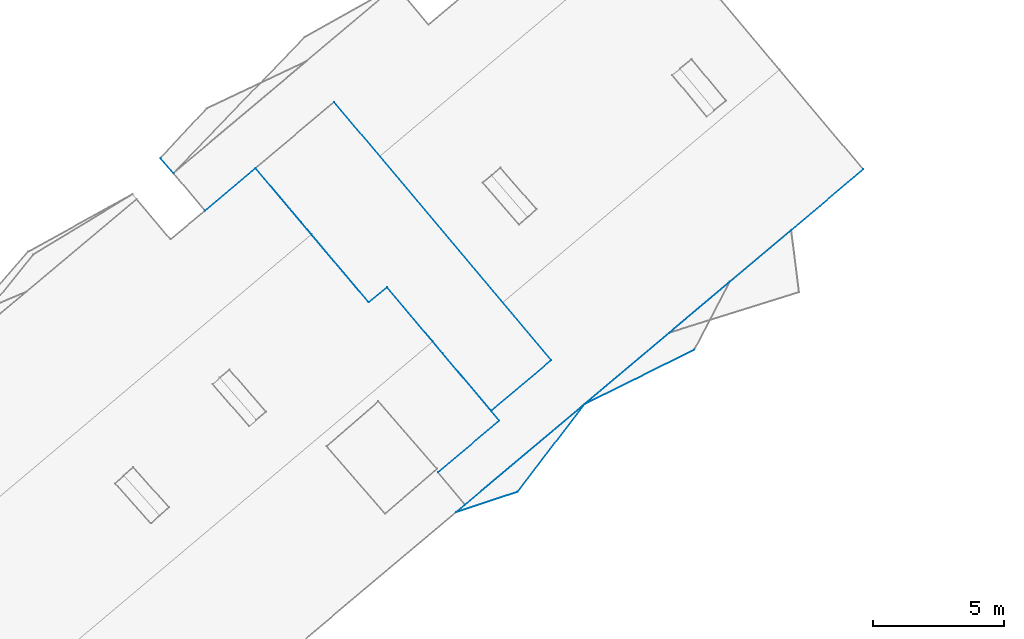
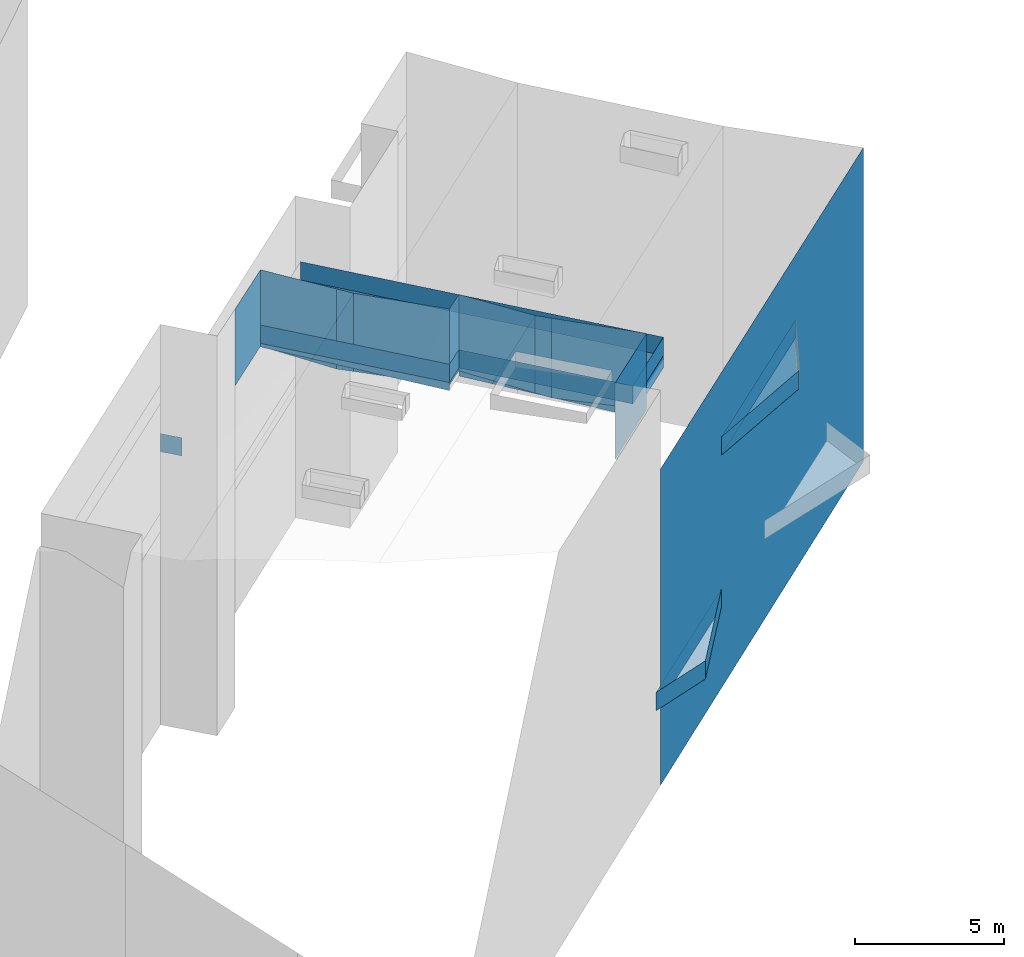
# Not in any storey, part 45 of 136: 36 walls.
"""IFC4 building model written with IfcOpenShell, lengths in metres."""

from ifc_helpers import new_model, entity, si_unit, converted_unit, frame, origin, place, context, subcontext, project, spatial, face_set, surface_model, element, save


model = new_model("IFC4")

# Units and contexts
model_context = context("Model", 3, precision=1e-05, world=origin())
body_context = subcontext(model_context, "Body", "Model", "MODEL_VIEW")
ifc_project = project(units=[converted_unit("PLANEANGLEUNIT", "DEGREE", entity("IfcRatioMeasure", 0.0174532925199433), si_unit("PLANEANGLEUNIT", "RADIAN"), dimensions=[0, 0, 0, 0, 0, 0, 0]), si_unit("AREAUNIT", "SQUARE_METRE"), si_unit("LENGTHUNIT", "METRE")], contexts=[model_context])

# Site, building
site_placement = place(None, origin())
site = spatial("IfcSite", under=ifc_project, at=site_placement, Name="_site")
building_placement = place(site_placement, origin())
building = spatial("IfcBuilding", under=site, at=building_placement, Name="_building")

# Walls
for number, where, name in (
    (1, (0.0, 0.0, 0.0), "Wall"),
    (2, (0.0, 0.0, 0.0), "Wall"),
):
    element("IfcWall", number, at=place(building_placement, frame(where)), inside=building, Name=name, PredefinedType="NOTDEFINED", context=body_context, shape_type="SurfaceModel", body=[
        surface_model("IfcFaceBasedSurfaceModel", [(43.54, 72.12, 47.93), (43.04, 72.69, 47.93), (43.04, 72.69, 48.68), (43.54, 72.12, 48.68)], [face_set([[[0, 1, 2, 3]]])]),
    ])
wall_1_placement = place(building_placement, origin())
element("IfcWall", 3, at=wall_1_placement, inside=building, Name="Wall", PredefinedType="NOTDEFINED", context=body_context, shape_type="SurfaceModel", body=[
    surface_model("IfcFaceBasedSurfaceModel", [(58.0, 64.96, 51.314), (55.7, 63.021, 51.314), (55.7, 63.021, 50.815), (58.0, 64.96, 50.816)], [face_set([[[0, 1, 2, 3]]])]),
])
wall_2_placement = place(building_placement, origin())
element("IfcWall", 4, at=wall_2_placement, inside=building, Name="Wall", PredefinedType="NOTDEFINED", context=body_context, shape_type="SurfaceModel", body=[
    surface_model("IfcFaceBasedSurfaceModel", [(51.01, 67.17, 51.314), (46.68, 72.311, 51.314), (46.68, 72.311, 51.172), (51.01, 67.17, 50.985)], [face_set([[[0, 1, 2, 3]]])]),
])
wall_3_placement = place(building_placement, origin())
element("IfcWall", 5, at=wall_3_placement, inside=building, Name="Wall", PredefinedType="NOTDEFINED", context=body_context, shape_type="SurfaceModel", body=[
    surface_model("IfcFaceBasedSurfaceModel", [(51.71, 67.75, 51.314), (51.01, 67.17, 51.314), (51.01, 67.17, 52.064), (51.71, 67.75, 52.064)], [face_set([[[0, 1, 2, 3]]])]),
])
wall_4_placement = place(building_placement, origin())
element("IfcWall", 6, at=wall_4_placement, inside=building, Name="Wall", PredefinedType="NOTDEFINED", context=body_context, shape_type="SurfaceModel", body=[
    surface_model("IfcFaceBasedSurfaceModel", [(55.7, 63.021, 51.314), (51.71, 67.75, 51.314), (51.71, 67.75, 52.064), (55.7, 63.021, 52.064)], [face_set([[[0, 1, 2, 3]]])]),
])
wall_5_placement = place(building_placement, origin())
element("IfcWall", 7, at=wall_5_placement, inside=building, Name="Wall", PredefinedType="NOTDEFINED", context=body_context, shape_type="SurfaceModel", body=[
    surface_model("IfcFaceBasedSurfaceModel", [(58.0, 64.96, 51.314), (55.7, 63.021, 51.314), (55.7, 63.021, 52.064), (58.0, 64.96, 52.064)], [face_set([[[0, 1, 2, 3]]])]),
])
wall_6_placement = place(building_placement, origin())
element("IfcWall", 8, at=wall_6_placement, inside=building, Name="Wall", PredefinedType="NOTDEFINED", context=body_context, shape_type="SurfaceModel", body=[
    surface_model("IfcFaceBasedSurfaceModel", [(49.69, 74.84, 51.314), (58.0, 64.96, 51.314), (58.0, 64.96, 52.064), (49.69, 74.84, 52.064)], [face_set([[[0, 1, 2, 3]]])]),
])
wall_7_placement = place(building_placement, origin())
element("IfcWall", 9, at=wall_7_placement, inside=building, Name="Wall", PredefinedType="NOTDEFINED", context=body_context, shape_type="SurfaceModel", body=[
    surface_model("IfcFaceBasedSurfaceModel", [(51.01, 67.17, 51.314), (46.68, 72.311, 51.314), (46.68, 72.311, 52.064), (51.01, 67.17, 52.064)], [face_set([[[0, 1, 2, 3]]])]),
])
wall_8_placement = place(building_placement, origin())
element("IfcWall", 10, at=wall_8_placement, inside=building, Name="Wall", PredefinedType="NOTDEFINED", context=body_context, shape_type="SurfaceModel", body=[
    surface_model("IfcFaceBasedSurfaceModel", [(51.71, 67.75, 51.314), (51.01, 67.17, 51.314), (51.01, 67.17, 52.064), (51.71, 67.75, 52.064)], [face_set([[[0, 1, 2, 3]]])]),
])
wall_9_placement = place(building_placement, origin())
element("IfcWall", 11, at=wall_9_placement, inside=building, Name="Wall", PredefinedType="NOTDEFINED", context=body_context, shape_type="SurfaceModel", body=[
    surface_model("IfcFaceBasedSurfaceModel", [(55.7, 63.021, 51.314), (51.71, 67.75, 51.314), (51.71, 67.75, 52.064), (55.7, 63.021, 52.064)], [face_set([[[0, 1, 2, 3]]])]),
])
wall_10_placement = place(building_placement, origin())
element("IfcWall", 12, at=wall_10_placement, inside=building, Name="Wall", PredefinedType="NOTDEFINED", context=body_context, shape_type="SurfaceModel", body=[
    surface_model("IfcFaceBasedSurfaceModel", [(58.0, 64.96, 51.314), (55.7, 63.021, 51.314), (55.7, 63.021, 52.064), (58.0, 64.96, 52.064)], [face_set([[[0, 1, 2, 3]]])]),
])
wall_11_placement = place(building_placement, origin())
element("IfcWall", 13, at=wall_11_placement, inside=building, Name="Wall", PredefinedType="NOTDEFINED", context=body_context, shape_type="SurfaceModel", body=[
    surface_model("IfcFaceBasedSurfaceModel", [(49.69, 74.84, 51.314), (58.0, 64.96, 51.314), (58.0, 64.96, 52.064), (49.69, 74.84, 52.064)], [face_set([[[0, 1, 2, 3]]])]),
])
wall_12_placement = place(building_placement, origin())
element("IfcWall", 14, at=wall_12_placement, inside=building, Name="Wall", PredefinedType="NOTDEFINED", context=body_context, shape_type="SurfaceModel", body=[
    surface_model("IfcFaceBasedSurfaceModel", [(51.01, 67.17, 51.314), (46.68, 72.311, 51.314), (46.68, 72.311, 52.064), (51.01, 67.17, 52.064)], [face_set([[[0, 1, 2, 3]]])]),
])
wall_13_placement = place(building_placement, origin())
element("IfcWall", 15, at=wall_13_placement, inside=building, Name="Wall", PredefinedType="NOTDEFINED", context=body_context, shape_type="SurfaceModel", body=[
    surface_model("IfcFaceBasedSurfaceModel", [(56.71, 59.92, 41.61), (54.35, 59.14, 41.61), (54.35, 59.14, 42.36), (56.71, 59.92, 42.36)], [face_set([[[0, 1, 2, 3]]])]),
])
wall_14_placement = place(building_placement, origin())
element("IfcWall", 16, at=wall_14_placement, inside=building, Name="Wall", PredefinedType="NOTDEFINED", context=body_context, shape_type="SurfaceModel", body=[
    surface_model("IfcFaceBasedSurfaceModel", [(59.27, 63.28, 47.81), (64.83, 67.96, 47.81), (64.83, 67.96, 48.56), (59.27, 63.28, 48.56)], [face_set([[[0, 1, 2, 3]]])]),
])
wall_15_placement = place(building_placement, origin())
element("IfcWall", 17, at=wall_15_placement, inside=building, Name="Wall", PredefinedType="NOTDEFINED", context=body_context, shape_type="SurfaceModel", body=[
    surface_model("IfcFaceBasedSurfaceModel", [(63.47, 65.351, 47.81), (59.27, 63.28, 47.81), (59.27, 63.28, 48.56), (63.47, 65.351, 48.56)], [face_set([[[0, 1, 2, 3]]])]),
])
wall_16_placement = place(building_placement, origin())
element("IfcWall", 18, at=wall_16_placement, inside=building, Name="Wall", PredefinedType="NOTDEFINED", context=body_context, shape_type="SurfaceModel", body=[
    surface_model("IfcFaceBasedSurfaceModel", [(59.27, 63.28, 47.81), (64.83, 67.96, 47.81), (64.83, 67.96, 48.56), (59.27, 63.28, 48.56)], [face_set([[[0, 1, 2, 3]]])]),
])
wall_17_placement = place(building_placement, origin())
element("IfcWall", 19, at=wall_17_placement, inside=building, Name="Wall", PredefinedType="NOTDEFINED", context=body_context, shape_type="SurfaceModel", body=[
    surface_model("IfcFaceBasedSurfaceModel", [(63.47, 65.351, 47.81), (59.27, 63.28, 47.81), (59.27, 63.28, 48.56), (63.47, 65.351, 48.56)], [face_set([[[0, 1, 2, 3]]])]),
])
wall_18_placement = place(building_placement, origin())
element("IfcWall", 20, at=wall_18_placement, inside=building, Name="Wall", PredefinedType="NOTDEFINED", context=body_context, shape_type="SurfaceModel", body=[
    surface_model("IfcFaceBasedSurfaceModel", [(48.43, 70.24, 54.181), (48.819, 69.779, 54.15), (48.819, 69.779, 50.954), (48.43, 70.24, 50.91)], [face_set([[[0, 1, 2, 3]]])]),
])
wall_19_placement = place(building_placement, origin())
element("IfcWall", 21, at=wall_19_placement, inside=building, Name="Wall", PredefinedType="NOTDEFINED", context=body_context, shape_type="SurfaceModel", body=[
    surface_model("IfcFaceBasedSurfaceModel", [(46.68, 72.311, 54.32), (48.43, 70.24, 54.181), (48.43, 70.24, 50.91), (46.68, 72.311, 51.2)], [face_set([[[0, 1, 2, 3]]])]),
])
wall_20_placement = place(building_placement, origin())
element("IfcWall", 22, at=wall_20_placement, inside=building, Name="Wall", PredefinedType="NOTDEFINED", context=body_context, shape_type="SurfaceModel", body=[
    surface_model("IfcFaceBasedSurfaceModel", [(44.75, 70.68, 54.37), (46.68, 72.311, 54.32), (46.68, 72.311, 51.2), (44.75, 70.68, 51.23)], [face_set([[[0, 1, 2, 3]]])]),
])
wall_21_placement = place(building_placement, origin())
element("IfcWall", 23, at=wall_21_placement, inside=building, Name="Wall", PredefinedType="NOTDEFINED", context=body_context, shape_type="SurfaceModel", body=[
    surface_model("IfcFaceBasedSurfaceModel", [(49.69, 74.84, 51.314), (58.0, 64.96, 51.314), (58.0, 64.96, 50.816), (49.69, 74.84, 51.174)], [face_set([[[0, 1, 2, 3]]])]),
])
wall_22_placement = place(building_placement, origin())
element("IfcWall", 24, at=wall_22_placement, inside=building, Name="Wall", PredefinedType="NOTDEFINED", context=body_context, shape_type="SurfaceModel", body=[
    surface_model("IfcFaceBasedSurfaceModel", [(56.01, 62.64, 54.32), (53.66, 60.67, 54.32), (53.66, 60.67, 51.2), (56.01, 62.64, 51.2)], [face_set([[[0, 1, 2, 3]]])]),
])
wall_23_placement = place(building_placement, origin())
element("IfcWall", 25, at=wall_23_placement, inside=building, Name="Wall", PredefinedType="NOTDEFINED", context=body_context, shape_type="SurfaceModel", body=[
    surface_model("IfcFaceBasedSurfaceModel", [(53.832, 65.231, 54.132), (56.01, 62.64, 54.32), (56.01, 62.64, 51.2), (53.832, 65.231, 50.88)], [face_set([[[0, 1, 2, 3]]])]),
])
wall_24_placement = place(building_placement, origin())
element("IfcWall", 26, at=wall_24_placement, inside=building, Name="Wall", PredefinedType="NOTDEFINED", context=body_context, shape_type="SurfaceModel", body=[
    surface_model("IfcFaceBasedSurfaceModel", [(53.458, 65.678, 54.1), (53.832, 65.231, 54.132), (53.832, 65.231, 50.88), (53.458, 65.678, 50.937)], [face_set([[[0, 1, 2, 3]]])]),
])
wall_25_placement = place(building_placement, origin())
element("IfcWall", 27, at=wall_25_placement, inside=building, Name="Wall", PredefinedType="NOTDEFINED", context=body_context, shape_type="SurfaceModel", body=[
    surface_model("IfcFaceBasedSurfaceModel", [(51.71, 67.75, 54.32), (53.458, 65.678, 54.1), (53.458, 65.678, 50.937), (51.71, 67.75, 51.2)], [face_set([[[0, 1, 2, 3]]])]),
])
wall_26_placement = place(building_placement, origin())
element("IfcWall", 28, at=wall_26_placement, inside=building, Name="Wall", PredefinedType="NOTDEFINED", context=body_context, shape_type="SurfaceModel", body=[
    surface_model("IfcFaceBasedSurfaceModel", [(51.01, 67.17, 54.32), (51.71, 67.75, 54.32), (51.71, 67.75, 51.2), (51.01, 67.17, 51.2)], [face_set([[[0, 1, 2, 3]]])]),
])
wall_27_placement = place(building_placement, origin())
element("IfcWall", 29, at=wall_27_placement, inside=building, Name="Wall", PredefinedType="NOTDEFINED", context=body_context, shape_type="SurfaceModel", body=[
    surface_model("IfcFaceBasedSurfaceModel", [(48.819, 69.779, 54.15), (51.01, 67.17, 54.32), (51.01, 67.17, 51.2), (48.819, 69.779, 50.954)], [face_set([[[0, 1, 2, 3]]])]),
])
wall_28_placement = place(building_placement, origin())
element("IfcWall", 30, at=wall_28_placement, inside=building, Name="Wall", PredefinedType="NOTDEFINED", context=body_context, shape_type="SurfaceModel", body=[
    surface_model("IfcFaceBasedSurfaceModel", [(55.7, 63.021, 51.314), (51.71, 67.75, 51.314), (51.71, 67.75, 50.986), (55.7, 63.021, 50.815)], [face_set([[[0, 1, 2, 3]]])]),
])
wall_29_placement = place(building_placement, origin())
element("IfcWall", 31, at=wall_29_placement, inside=building, Name="Wall", PredefinedType="NOTDEFINED", context=body_context, shape_type="SurfaceModel", body=[
    surface_model("IfcFaceBasedSurfaceModel", [(54.35, 59.14, 41.61), (59.27, 63.28, 41.61), (59.27, 63.28, 42.36), (54.35, 59.14, 42.36)], [face_set([[[0, 1, 2, 3]]])]),
])
wall_30_placement = place(building_placement, origin())
element("IfcWall", 32, at=wall_30_placement, inside=building, Name="Wall", PredefinedType="NOTDEFINED", context=body_context, shape_type="SurfaceModel", body=[
    surface_model("IfcFaceBasedSurfaceModel", [(59.27, 63.28, 41.61), (56.71, 59.92, 41.61), (56.71, 59.92, 42.36), (59.27, 63.28, 42.36)], [face_set([[[0, 1, 2, 3]]])]),
])
wall_31_placement = place(building_placement, origin())
element("IfcWall", 33, at=wall_31_placement, inside=building, Name="Wall", PredefinedType="NOTDEFINED", context=body_context, shape_type="SurfaceModel", body=[
    surface_model("IfcFaceBasedSurfaceModel", [(54.35, 59.14, 41.61), (59.27, 63.28, 41.61), (59.27, 63.28, 42.36), (54.35, 59.14, 42.36)], [face_set([[[0, 1, 2, 3]]])]),
])
wall_32_placement = place(building_placement, origin())
element("IfcWall", 34, at=wall_32_placement, inside=building, Name="Wall", PredefinedType="NOTDEFINED", context=body_context, shape_type="SurfaceModel", body=[
    surface_model("IfcFaceBasedSurfaceModel", [(56.71, 59.92, 41.61), (54.35, 59.14, 41.61), (54.35, 59.14, 42.36), (56.71, 59.92, 42.36)], [face_set([[[0, 1, 2, 3]]])]),
])
wall_33_placement = place(building_placement, origin())
element("IfcWall", 35, at=wall_33_placement, inside=building, Name="Wall", PredefinedType="NOTDEFINED", context=body_context, shape_type="SurfaceModel", body=[
    surface_model("IfcFaceBasedSurfaceModel", [(59.27, 63.28, 41.61), (56.71, 59.92, 41.61), (56.71, 59.92, 42.36), (59.27, 63.28, 42.36)], [face_set([[[0, 1, 2, 3]]])]),
])
wall_34_placement = place(building_placement, origin())
element("IfcWall", 36, at=wall_34_placement, inside=building, Name="Wall", PredefinedType="NOTDEFINED", context=body_context, shape_type="SurfaceModel", body=[
    surface_model("IfcFaceBasedSurfaceModel", [(69.94, 72.26, 51.2), (54.7, 59.43, 51.2), (54.7, 59.43, 38.276), (69.94, 72.26, 38.382)], [face_set([[[0, 1, 2, 3]]])]),
])

save(model, "model.ifc")
